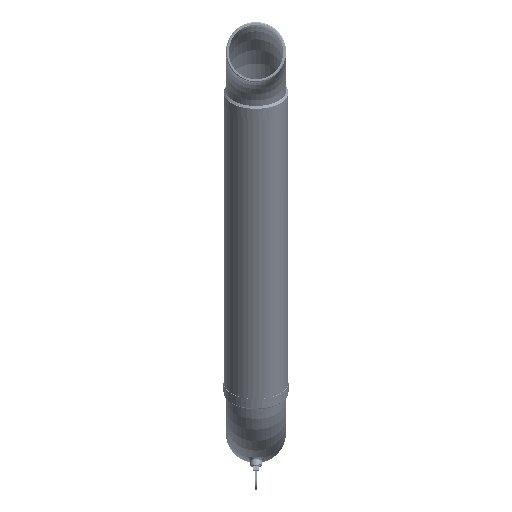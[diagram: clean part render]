
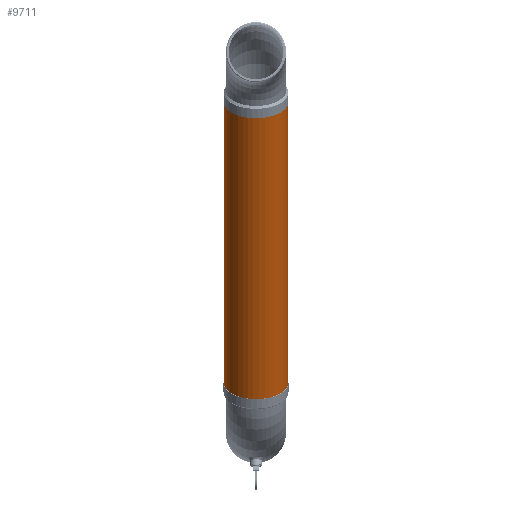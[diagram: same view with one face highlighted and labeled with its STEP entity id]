
A CAD part, front view. The second image highlights one B-rep face of the part: STEP entity #9711.
In plain terms, the highlighted cylindrical face has radius 75.565 mm (diameter 151.13 mm), a full revolution.
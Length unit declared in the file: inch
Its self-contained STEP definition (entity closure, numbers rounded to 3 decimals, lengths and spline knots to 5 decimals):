
#9684=CARTESIAN_POINT('',(0.0,0.0,0.0));
#9685=DIRECTION('',(0.0,0.0,1.0));
#9686=DIRECTION('',(-1.0,0.0,0.0));
#9687=AXIS2_PLACEMENT_3D('',#9684,#9685,#9686);
#9688=CYLINDRICAL_SURFACE('',#9687,2.975);
#9689=CARTESIAN_POINT('',(2.975,0.,32.01));
#9690=VERTEX_POINT('',#9689);
#9691=CARTESIAN_POINT('',(0.0,0.0,32.01));
#9692=DIRECTION('',(0.0,0.0,-1.0));
#9693=DIRECTION('',(-1.0,0.0,0.0));
#9694=AXIS2_PLACEMENT_3D('',#9691,#9692,#9693);
#9695=CIRCLE('',#9694,2.975);
#9696=EDGE_CURVE('',#9690,#9690,#9695,.T.);
#9697=ORIENTED_EDGE('',*,*,#9696,.T.);
#9698=EDGE_LOOP('',(#9697));
#9699=FACE_OUTER_BOUND('',#9698,.T.);
#9700=CARTESIAN_POINT('',(2.975,0.,0.0));
#9701=VERTEX_POINT('',#9700);
#9702=CARTESIAN_POINT('',(0.0,0.0,0.0));
#9703=DIRECTION('',(0.0,0.0,-1.0));
#9704=DIRECTION('',(-1.0,0.0,0.0));
#9705=AXIS2_PLACEMENT_3D('',#9702,#9703,#9704);
#9706=CIRCLE('',#9705,2.975);
#9707=EDGE_CURVE('',#9701,#9701,#9706,.T.);
#9708=ORIENTED_EDGE('',*,*,#9707,.F.);
#9709=EDGE_LOOP('',(#9708));
#9710=FACE_BOUND('',#9709,.T.);
#9711=ADVANCED_FACE('',(#9699,#9710),#9688,.T.);
